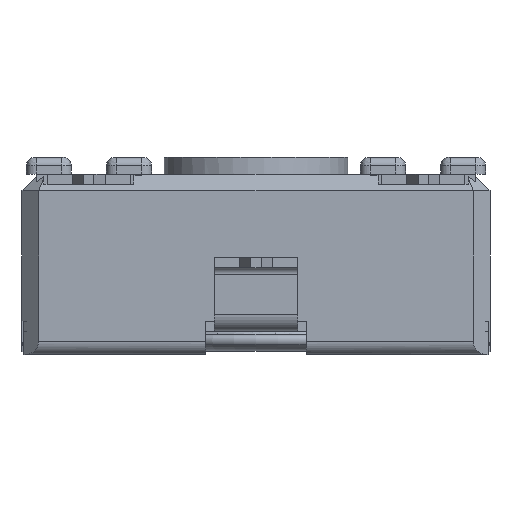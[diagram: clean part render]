
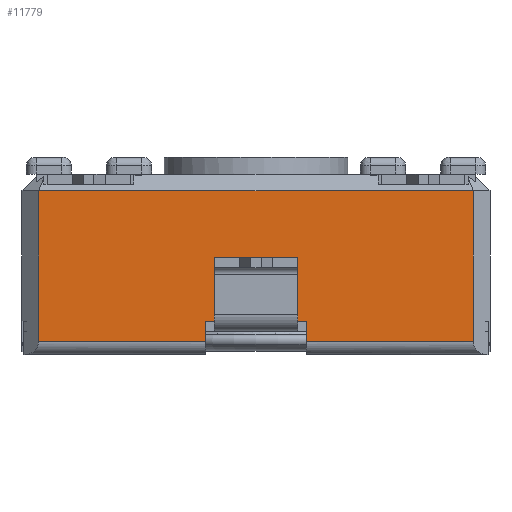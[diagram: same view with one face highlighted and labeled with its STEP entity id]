
A CAD part, front view. The second image highlights one B-rep face of the part: STEP entity #11779.
In plain terms, the highlighted planar face has unit normal (0, -1, 0).
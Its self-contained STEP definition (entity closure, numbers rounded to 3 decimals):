
#674=FACE_OUTER_BOUND('',#1265,.T.);
#1265=EDGE_LOOP('',(#9435,#9436,#9437,#9438,#9439,#9440,#9441,#9442,#9443,
#9444));
#1854=LINE('',#16154,#3093);
#1996=LINE('',#16488,#3235);
#2499=LINE('',#17899,#3738);
#2507=LINE('',#17916,#3746);
#2523=LINE('',#17956,#3762);
#2524=LINE('',#17961,#3763);
#2794=LINE('',#18735,#4033);
#2804=LINE('',#18753,#4043);
#2821=LINE('',#18797,#4060);
#2825=LINE('',#18803,#4064);
#3093=VECTOR('',#12979,10.);
#3235=VECTOR('',#13273,10.);
#3738=VECTOR('',#14446,10.);
#3746=VECTOR('',#14458,10.);
#3762=VECTOR('',#14494,10.);
#3763=VECTOR('',#14501,10.);
#4033=VECTOR('',#15215,10.);
#4043=VECTOR('',#15235,10.);
#4060=VECTOR('',#15276,10.);
#4064=VECTOR('',#15284,10.);
#4343=VERTEX_POINT('',#16152);
#4344=VERTEX_POINT('',#16153);
#4460=VERTEX_POINT('',#16487);
#4888=VERTEX_POINT('',#17896);
#4889=VERTEX_POINT('',#17898);
#4896=VERTEX_POINT('',#17914);
#4910=VERTEX_POINT('',#17955);
#4911=VERTEX_POINT('',#17959);
#5161=VERTEX_POINT('',#18734);
#5169=VERTEX_POINT('',#18795);
#5416=EDGE_CURVE('',#4343,#4344,#1854,.T.);
#5589=EDGE_CURVE('',#4460,#4343,#1996,.T.);
#6233=EDGE_CURVE('',#4888,#4889,#2499,.T.);
#6242=EDGE_CURVE('',#4888,#4896,#2507,.T.);
#6262=EDGE_CURVE('',#4460,#4910,#2523,.T.);
#6265=EDGE_CURVE('',#4910,#4911,#2524,.T.);
#6642=EDGE_CURVE('',#5161,#4889,#2794,.T.);
#6652=EDGE_CURVE('',#4344,#5161,#2804,.T.);
#6670=EDGE_CURVE('',#5169,#4896,#2821,.T.);
#6674=EDGE_CURVE('',#4911,#5169,#2825,.T.);
#9435=ORIENTED_EDGE('',*,*,#6233,.F.);
#9436=ORIENTED_EDGE('',*,*,#6242,.T.);
#9437=ORIENTED_EDGE('',*,*,#6670,.F.);
#9438=ORIENTED_EDGE('',*,*,#6674,.F.);
#9439=ORIENTED_EDGE('',*,*,#6265,.F.);
#9440=ORIENTED_EDGE('',*,*,#6262,.F.);
#9441=ORIENTED_EDGE('',*,*,#5589,.T.);
#9442=ORIENTED_EDGE('',*,*,#5416,.T.);
#9443=ORIENTED_EDGE('',*,*,#6652,.T.);
#9444=ORIENTED_EDGE('',*,*,#6642,.T.);
#10678=PLANE('',#12649);
#11779=ADVANCED_FACE('',(#674),#10678,.T.);
#12649=AXIS2_PLACEMENT_3D('',#18802,#15282,#15283);
#12979=DIRECTION('',(1.,0.,0.));
#13273=DIRECTION('',(1.,0.,0.));
#14446=DIRECTION('',(-1.,0.,0.));
#14458=DIRECTION('',(0.,0.,1.));
#14494=DIRECTION('',(0.,0.,-1.));
#14501=DIRECTION('',(-1.,0.,0.));
#15215=DIRECTION('',(0.,0.,-1.));
#15235=DIRECTION('',(1.,0.,0.));
#15276=DIRECTION('',(1.,0.,0.));
#15282=DIRECTION('center_axis',(0.,-1.,0.));
#15283=DIRECTION('ref_axis',(1.,0.,0.));
#15284=DIRECTION('',(0.,0.,1.));
#16152=CARTESIAN_POINT('',(-11.405,0.3,0.));
#16153=CARTESIAN_POINT('',(-8.905,0.3,0.));
#16154=CARTESIAN_POINT('',(-16.655,0.3,0.));
#16487=CARTESIAN_POINT('',(-11.655,0.3,0.));
#16488=CARTESIAN_POINT('',(-16.655,0.3,0.));
#17896=CARTESIAN_POINT('',(-3.655,0.3,-0.6));
#17898=CARTESIAN_POINT('',(-8.655,0.3,-0.6));
#17899=CARTESIAN_POINT('',(-11.325,0.3,-0.6));
#17914=CARTESIAN_POINT('',(-3.655,0.3,3.9));
#17916=CARTESIAN_POINT('',(-3.655,0.3,0.));
#17955=CARTESIAN_POINT('',(-11.655,0.3,-0.6));
#17956=CARTESIAN_POINT('',(-11.655,0.3,-0.3));
#17959=CARTESIAN_POINT('',(-16.655,0.3,-0.6));
#17961=CARTESIAN_POINT('',(-15.484,0.3,-0.6));
#18734=CARTESIAN_POINT('',(-8.655,0.3,0.));
#18735=CARTESIAN_POINT('',(-8.655,0.3,0.));
#18753=CARTESIAN_POINT('',(-16.655,0.3,0.));
#18795=CARTESIAN_POINT('',(-16.655,0.3,3.9));
#18797=CARTESIAN_POINT('',(-13.405,0.3,3.9));
#18802=CARTESIAN_POINT('Origin',(-16.655,0.3,0.));
#18803=CARTESIAN_POINT('',(-16.655,0.3,0.));
